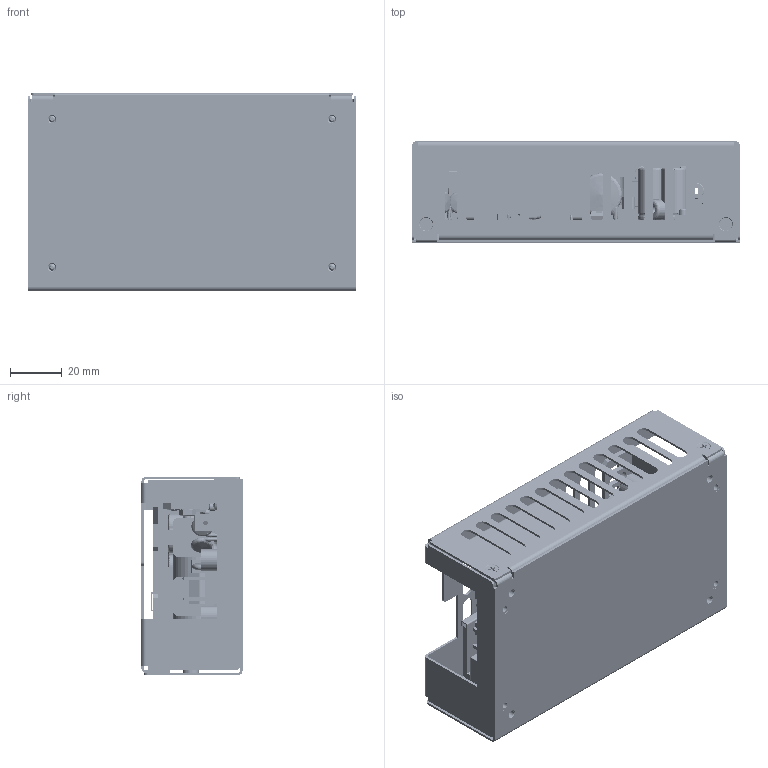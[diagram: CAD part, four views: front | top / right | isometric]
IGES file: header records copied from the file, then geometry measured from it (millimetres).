
Start section: SolidWorks IGES file using analytic representation for surfaces
Global section: file name: C:\Documents and Settings\behzar\Desktop\BEHZAR\PROJECTS\CURRENT-2010\SW-MODELS\WORKING\HELP\ECM100 STD SINGLE WITH COVER ASSY.IGS; native system: SolidWorks 2010; preprocessor: SolidWorks 2010; author: BEHZAR; date: 100618.113052; units: inch
Bounding box: 126.5 x 39 x 76.4 mm (x, y, z)
Surface area: 149005.5 mm2 (no closed solid volume)
Topology: 0 solids, 0 shells, 3403 faces, 37130 edges, 37106 vertices
Faces by surface type: bspline 2144, revolution 1259
